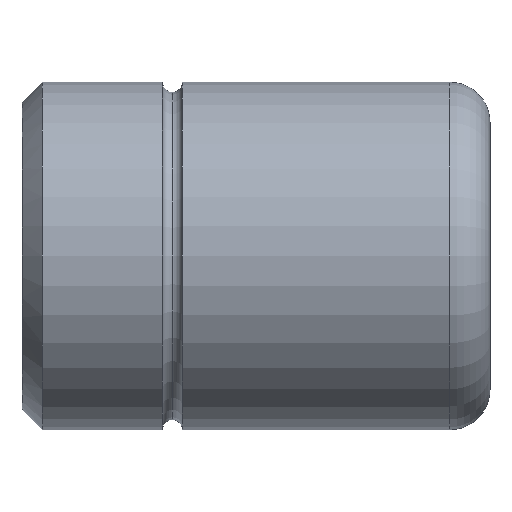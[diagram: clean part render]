
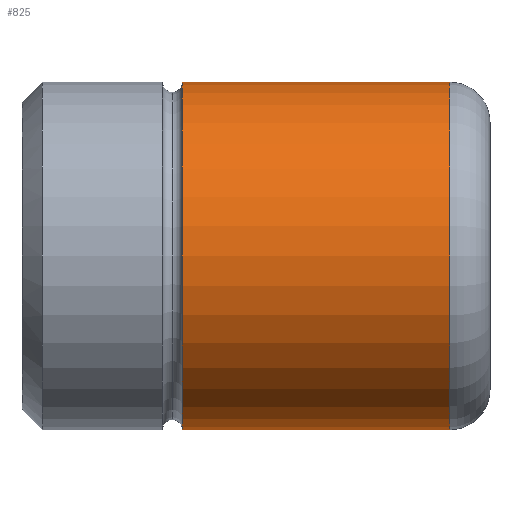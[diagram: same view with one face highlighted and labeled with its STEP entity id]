
A CAD part, front view. The second image highlights one B-rep face of the part: STEP entity #825.
In plain terms, the highlighted cylindrical face has radius 13 mm (diameter 26 mm), a partial arc.
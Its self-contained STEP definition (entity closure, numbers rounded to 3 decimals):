
#641=CARTESIAN_POINT('Vertex',(12.,0.,13.)) ;
#648=CARTESIAN_POINT('Vertex',(12.,0.,-13.)) ;
#674=CARTESIAN_POINT('Axis2P3D Location',(12.,0.,0.)) ;
#678=CARTESIAN_POINT('Vertex',(12.,-13.,0.)) ;
#681=CARTESIAN_POINT('Axis2P3D Location',(12.,0.,0.)) ;
#765=CARTESIAN_POINT('Line Origine',(35.,0.,13.)) ;
#769=CARTESIAN_POINT('Vertex',(32.,0.,13.)) ;
#783=CARTESIAN_POINT('Vertex',(32.,0.,-13.)) ;
#786=CARTESIAN_POINT('Line Origine',(35.,0.,-13.)) ;
#800=CARTESIAN_POINT('Axis2P3D Location',(35.,0.,0.)) ;
#805=CARTESIAN_POINT('Axis2P3D Location',(32.,0.,0.)) ;
#809=CARTESIAN_POINT('Vertex',(32.,-13.,0.)) ;
#812=CARTESIAN_POINT('Axis2P3D Location',(32.,0.,0.)) ;
#675=DIRECTION('Axis2P3D Direction',(1.,0.,0.)) ;
#682=DIRECTION('Axis2P3D Direction',(1.,0.,0.)) ;
#766=DIRECTION('Vector Direction',(-1.,0.,0.)) ;
#787=DIRECTION('Vector Direction',(-1.,0.,0.)) ;
#801=DIRECTION('Axis2P3D Direction',(-1.,-0.,-0.)) ;
#802=DIRECTION('Axis2P3D XDirection',(0.,0.,-1.)) ;
#806=DIRECTION('Axis2P3D Direction',(-1.,-0.,-0.)) ;
#813=DIRECTION('Axis2P3D Direction',(-1.,-0.,-0.)) ;
#676=AXIS2_PLACEMENT_3D('Circle Axis2P3D',#674,#675,$) ;
#683=AXIS2_PLACEMENT_3D('Circle Axis2P3D',#681,#682,$) ;
#803=AXIS2_PLACEMENT_3D('Cylinder Axis2P3D',#800,#801,#802) ;
#807=AXIS2_PLACEMENT_3D('Circle Axis2P3D',#805,#806,$) ;
#814=AXIS2_PLACEMENT_3D('Circle Axis2P3D',#812,#813,$) ;
#818=ORIENTED_EDGE('',*,*,#790,.T.) ;
#819=ORIENTED_EDGE('',*,*,#811,.F.) ;
#820=ORIENTED_EDGE('',*,*,#816,.F.) ;
#821=ORIENTED_EDGE('',*,*,#771,.T.) ;
#822=ORIENTED_EDGE('',*,*,#685,.T.) ;
#823=ORIENTED_EDGE('',*,*,#680,.T.) ;
#767=VECTOR('Line Direction',#766,1.) ;
#788=VECTOR('Line Direction',#787,1.) ;
#825=ADVANCED_FACE('347-16 x 35',(#824),#804,.T.) ;
#677=CIRCLE('generated circle',#676,13.) ;
#684=CIRCLE('generated circle',#683,13.) ;
#808=CIRCLE('generated circle',#807,13.) ;
#815=CIRCLE('generated circle',#814,13.) ;
#804=CYLINDRICAL_SURFACE('generated cylinder',#803,13.) ;
#680=EDGE_CURVE('',#679,#649,#677,.T.) ;
#685=EDGE_CURVE('',#642,#679,#684,.T.) ;
#771=EDGE_CURVE('',#770,#642,#768,.T.) ;
#790=EDGE_CURVE('',#649,#784,#789,.F.) ;
#811=EDGE_CURVE('',#810,#784,#808,.F.) ;
#816=EDGE_CURVE('',#770,#810,#815,.F.) ;
#817=EDGE_LOOP('',(#818,#819,#820,#821,#822,#823)) ;
#824=FACE_OUTER_BOUND('',#817,.T.) ;
#768=LINE('Line',#765,#767) ;
#789=LINE('Line',#786,#788) ;
#642=VERTEX_POINT('',#641) ;
#649=VERTEX_POINT('',#648) ;
#679=VERTEX_POINT('',#678) ;
#770=VERTEX_POINT('',#769) ;
#784=VERTEX_POINT('',#783) ;
#810=VERTEX_POINT('',#809) ;
